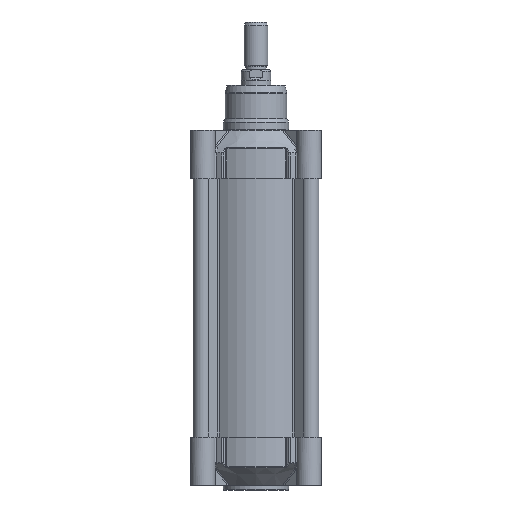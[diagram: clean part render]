
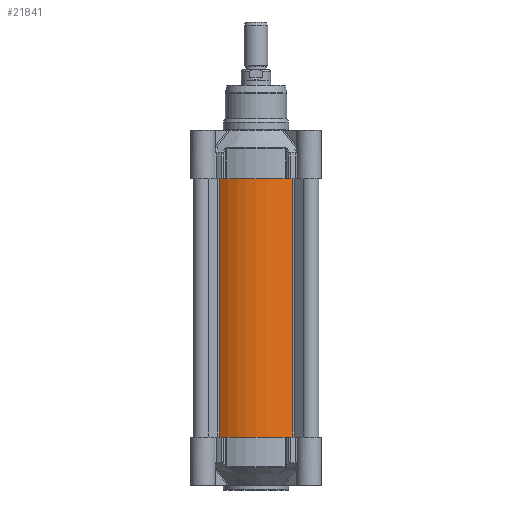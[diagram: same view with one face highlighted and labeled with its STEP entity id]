
A CAD part, left-side view. The second image highlights one B-rep face of the part: STEP entity #21841.
In plain terms, the highlighted cylindrical face has radius 52.7 mm (diameter 105.4 mm), a partial arc.
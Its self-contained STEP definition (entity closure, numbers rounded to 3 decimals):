
#1972=LINE('',#43617,#3030);
#1973=LINE('',#43621,#3031);
#3030=VECTOR('',#29906,10.);
#3031=VECTOR('',#29911,10.);
#4020=CYLINDRICAL_SURFACE('',#24279,52.7);
#5708=FACE_OUTER_BOUND('',#7393,.T.);
#7393=EDGE_LOOP('',(#18817,#18818,#18819,#18820));
#8528=CIRCLE('',#24118,52.7);
#8585=CIRCLE('',#24280,52.7);
#10334=VERTEX_POINT('',#43193);
#10335=VERTEX_POINT('',#43195);
#10441=VERTEX_POINT('',#43615);
#10442=VERTEX_POINT('',#43619);
#13081=EDGE_CURVE('',#10334,#10335,#8528,.T.);
#13292=EDGE_CURVE('',#10334,#10441,#1972,.T.);
#13293=EDGE_CURVE('',#10442,#10441,#8585,.T.);
#13294=EDGE_CURVE('',#10335,#10442,#1973,.T.);
#18817=ORIENTED_EDGE('',*,*,#13292,.T.);
#18818=ORIENTED_EDGE('',*,*,#13293,.F.);
#18819=ORIENTED_EDGE('',*,*,#13294,.F.);
#18820=ORIENTED_EDGE('',*,*,#13081,.F.);
#21841=ADVANCED_FACE('',(#5708),#4020,.T.);
#24118=AXIS2_PLACEMENT_3D('',#43196,#29430,#29431);
#24279=AXIS2_PLACEMENT_3D('',#43618,#29907,#29908);
#24280=AXIS2_PLACEMENT_3D('',#43620,#29909,#29910);
#29430=DIRECTION('center_axis',(0.,0.,-1.));
#29431=DIRECTION('ref_axis',(-0.586,-0.81,0.));
#29906=DIRECTION('',(0.,0.,1.));
#29907=DIRECTION('center_axis',(0.,0.,1.));
#29908=DIRECTION('ref_axis',(-0.586,-0.81,0.));
#29909=DIRECTION('center_axis',(0.,0.,1.));
#29910=DIRECTION('ref_axis',(-0.586,-0.81,0.));
#29911=DIRECTION('',(0.,0.,1.));
#43193=CARTESIAN_POINT('',(30.896,-42.693,-108.5));
#43195=CARTESIAN_POINT('',(-30.896,-42.693,-108.5));
#43196=CARTESIAN_POINT('Origin',(0.,0.,
-108.5));
#43615=CARTESIAN_POINT('',(30.896,-42.693,108.5));
#43617=CARTESIAN_POINT('',(30.896,-42.693,0.));
#43618=CARTESIAN_POINT('Origin',(0.,0.,
0.));
#43619=CARTESIAN_POINT('',(-30.896,-42.693,108.5));
#43620=CARTESIAN_POINT('Origin',(0.,0.,
108.5));
#43621=CARTESIAN_POINT('',(-30.896,-42.693,0.));
